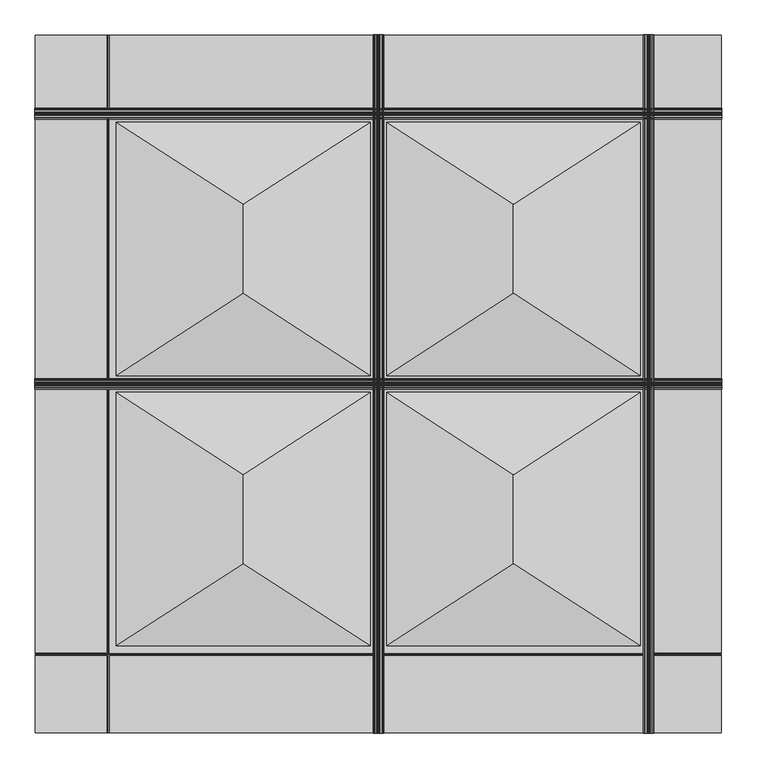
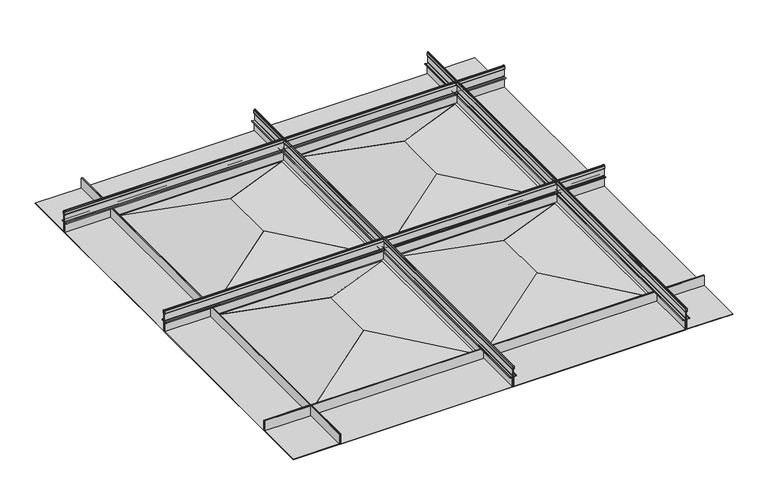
"""IFC4 building model written with IfcOpenShell, lengths in millimetres: proxy geometry, Maxxit_Piramid-Ceiling_rev-01 : Maxxit_Piramid-Ceiling_Solo."""

from ifc_helpers import new_model, si_unit, point, frame, frame_2d, origin, place, context, project, spatial, polyline, circle_curve, trimmed, segment, composite_curve, outline, extrude, faceted_brep, source, transform, mapped, element, save


def generic_models_cb427188(model_context):
    return source(origin(), model_context, "Body", "SolidModel", [
        faceted_brep([(163.5125, 1395.4125, 25.4), (0.0, 1395.4125, 25.4), (0.0, 1393.825, 25.4), (161.925, 1393.825, 25.4), (161.925, 788.9875, 25.4), (0.0, 788.9875, 25.4), (0.0, 787.4, 25.4), (163.5125, 787.4, 25.4), (163.5125, 1395.4125, -12.7), (163.5125, 787.4, -12.7), (0.0, 787.4, -12.7), (0.0, 1395.4125, -12.7), (0.0, 788.9875, -11.1125), (0.0, 1393.825, -11.1125), (161.925, 788.9875, -11.1125), (161.925, 1393.825, -11.1125)], [[[0, 1, 2, 3, 4, 5, 6, 7]], [[8, 9, 10, 11]], [[1, 0, 8, 11]], [[11, 10, 6, 5, 12, 13, 2, 1]], [[7, 6, 10, 9]], [[0, 7, 9, 8]], [[14, 15, 13, 12]], [[13, 15, 3, 2]], [[14, 12, 5, 4]], [[15, 14, 4, 3]]]),
        faceted_brep([(163.5125, 785.8125, 25.4), (0.0, 785.8125, 25.4), (0.0, 784.225, 25.4), (161.925, 784.225, 25.4), (161.925, 179.3875, 25.4), (0.0, 179.3875, 25.4), (0.0, 177.8, 25.4), (163.5125, 177.8, 25.4), (163.5125, 785.8125, -12.7), (163.5125, 177.8, -12.7), (0.0, 177.8, -12.7), (0.0, 785.8125, -12.7), (0.0, 179.3875, -11.1125), (0.0, 784.225, -11.1125), (161.925, 179.3875, -11.1125), (161.925, 784.225, -11.1125)], [[[0, 1, 2, 3, 4, 5, 6, 7]], [[8, 9, 10, 11]], [[1, 0, 8, 11]], [[11, 10, 6, 5, 12, 13, 2, 1]], [[7, 6, 10, 9]], [[0, 7, 9, 8]], [[14, 15, 13, 12]], [[13, 15, 3, 2]], [[14, 12, 5, 4]], [[15, 14, 4, 3]]]),
        faceted_brep([(1384.3, 1395.4125, 25.4), (1384.3, 787.4, 25.4), (1547.8125, 787.4, 25.4), (1547.8125, 788.9875, 25.4), (1385.8875, 788.9875, 25.4), (1385.8875, 1393.825, 25.4), (1547.8125, 1393.825, 25.4), (1547.8125, 1395.4125, 25.4), (1384.3, 1395.4125, -12.7), (1547.8125, 1395.4125, -12.7), (1547.8125, 787.4, -12.7), (1384.3, 787.4, -12.7), (1547.8125, 1393.825, -11.1125), (1547.8125, 788.9875, -11.1125), (1385.8875, 788.9875, -11.1125), (1385.8875, 1393.825, -11.1125)], [[[0, 1, 2, 3, 4, 5, 6, 7]], [[8, 9, 10, 11]], [[7, 9, 8, 0]], [[9, 7, 6, 12, 13, 3, 2, 10]], [[1, 11, 10, 2]], [[0, 8, 11, 1]], [[14, 13, 12, 15]], [[12, 6, 5, 15]], [[14, 4, 3, 13]], [[15, 5, 4, 14]]]),
        faceted_brep([(1384.3, 785.8125, 25.4), (1384.3, 177.8, 25.4), (1547.8125, 177.8, 25.4), (1547.8125, 179.3875, 25.4), (1385.8875, 179.3875, 25.4), (1385.8875, 784.225, 25.4), (1547.8125, 784.225, 25.4), (1547.8125, 785.8125, 25.4), (1384.3, 785.8125, -12.7), (1547.8125, 785.8125, -12.7), (1547.8125, 177.8, -12.7), (1384.3, 177.8, -12.7), (1547.8125, 784.225, -11.1125), (1547.8125, 179.3875, -11.1125), (1385.8875, 179.3875, -11.1125), (1385.8875, 784.225, -11.1125)], [[[0, 1, 2, 3, 4, 5, 6, 7]], [[8, 9, 10, 11]], [[7, 9, 8, 0]], [[9, 7, 6, 12, 13, 3, 2, 10]], [[1, 11, 10, 2]], [[0, 8, 11, 1]], [[14, 13, 12, 15]], [[12, 6, 5, 15]], [[14, 4, 3, 13]], [[15, 5, 4, 14]]]),
        faceted_brep([(1382.7125, 1397.0, 25.4), (1382.7125, 1573.2125, 25.4), (1381.125, 1573.2125, 25.4), (1381.125, 1398.5875, 25.4), (776.2875, 1398.5875, 25.4), (776.2875, 1573.2125, 25.4), (774.7, 1573.2125, 25.4), (774.7, 1397.0, 25.4), (1382.7125, 1397.0, -12.7), (774.7, 1397.0, -12.7), (774.7, 1573.2125, -12.7), (1382.7125, 1573.2125, -12.7), (776.2875, 1573.2125, -11.1125), (1381.125, 1573.2125, -11.1125), (1381.125, 1398.5875, -11.1125), (776.2875, 1398.5875, -11.1125)], [[[0, 1, 2, 3, 4, 5, 6, 7]], [[8, 9, 10, 11]], [[7, 9, 8, 0]], [[6, 10, 9, 7]], [[10, 6, 5, 12, 13, 2, 1, 11]], [[0, 8, 11, 1]], [[14, 13, 12, 15]], [[15, 4, 3, 14]], [[15, 12, 5, 4]], [[3, 2, 13, 14]]]),
        faceted_brep([(773.1125, 1397.0, 25.4), (773.1125, 1573.2125, 25.4), (771.525, 1573.2125, 25.4), (771.525, 1398.5875, 25.4), (166.6875, 1398.5875, 25.4), (166.6875, 1573.2125, 25.4), (165.1, 1573.2125, 25.4), (165.1, 1397.0, 25.4), (773.1125, 1397.0, -12.7), (165.1, 1397.0, -12.7), (165.1, 1573.2125, -12.7), (773.1125, 1573.2125, -12.7), (166.6875, 1573.2125, -11.1125), (771.525, 1573.2125, -11.1125), (771.525, 1398.5875, -11.1125), (166.6875, 1398.5875, -11.1125)], [[[0, 1, 2, 3, 4, 5, 6, 7]], [[8, 9, 10, 11]], [[7, 9, 8, 0]], [[6, 10, 9, 7]], [[10, 6, 5, 12, 13, 2, 1, 11]], [[0, 8, 11, 1]], [[14, 13, 12, 15]], [[15, 4, 3, 14]], [[15, 12, 5, 4]], [[3, 2, 13, 14]]]),
        faceted_brep([(1382.7125, 176.2125, 25.4), (774.7, 176.2125, 25.4), (774.7, 0.0, 25.4), (776.2875, 0.0, 25.4), (776.2875, 174.625, 25.4), (1381.125, 174.625, 25.4), (1381.125, 0.0, 25.4), (1382.7125, 0.0, 25.4), (1382.7125, 176.2125, -12.7), (1382.7125, 0.0, -12.7), (774.7, 0.0, -12.7), (774.7, 176.2125, -12.7), (1381.125, 0.0, -11.1125), (776.2875, 0.0, -11.1125), (1381.125, 174.625, -11.1125), (776.2875, 174.625, -11.1125)], [[[0, 1, 2, 3, 4, 5, 6, 7]], [[8, 9, 10, 11]], [[1, 0, 8, 11]], [[2, 1, 11, 10]], [[10, 9, 7, 6, 12, 13, 3, 2]], [[0, 7, 9, 8]], [[14, 15, 13, 12]], [[15, 14, 5, 4]], [[15, 4, 3, 13]], [[5, 14, 12, 6]]]),
        faceted_brep([(773.1125, 176.2125, 25.4), (165.1, 176.2125, 25.4), (165.1, 0.0, 25.4), (166.6875, 0.0, 25.4), (166.6875, 174.625, 25.4), (771.525, 174.625, 25.4), (771.525, 0.0, 25.4), (773.1125, 0.0, 25.4), (773.1125, 176.2125, -12.7), (773.1125, 0.0, -12.7), (165.1, 0.0, -12.7), (165.1, 176.2125, -12.7), (771.525, 0.0, -11.1125), (166.6875, 0.0, -11.1125), (771.525, 174.625, -11.1125), (166.6875, 174.625, -11.1125)], [[[0, 1, 2, 3, 4, 5, 6, 7]], [[8, 9, 10, 11]], [[1, 0, 8, 11]], [[2, 1, 11, 10]], [[10, 9, 7, 6, 12, 13, 3, 2]], [[0, 7, 9, 8]], [[14, 15, 13, 12]], [[15, 14, 5, 4]], [[15, 4, 3, 13]], [[5, 14, 12, 6]]]),
        faceted_brep([(1547.8125, 176.2125, 25.4), (1384.3, 176.2125, 25.4), (1384.3, 0.0, 25.4), (1385.8875, 0.0, 25.4), (1385.8875, 174.625, 25.4), (1547.8125, 174.625, 25.4), (1384.3, 0.0, -12.7), (1384.3, 176.2125, -12.7), (1547.8125, 176.2125, -12.7), (1547.8125, 0.0, -12.7), (1547.8125, 0.0, -11.1125), (1385.8875, 0.0, -11.1125), (1547.8125, 174.625, -11.1125), (1385.8875, 174.625, -11.1125)], [[[0, 1, 2, 3, 4, 5]], [[6, 7, 8, 9]], [[6, 9, 10, 11, 3, 2]], [[9, 8, 0, 5, 12, 10]], [[2, 1, 7, 6]], [[1, 0, 8, 7]], [[13, 11, 10, 12]], [[11, 13, 4, 3]], [[13, 12, 5, 4]]]),
        faceted_brep([(163.5125, 0.0, 25.4), (163.5125, 176.2125, 25.4), (0.0, 176.2125, 25.4), (0.0, 174.625, 25.4), (161.925, 174.625, 25.4), (161.925, 0.0, 25.4), (0.0, 176.2125, -12.7), (163.5125, 176.2125, -12.7), (163.5125, 0.0, -12.7), (0.0, 0.0, -12.7), (0.0, 0.0, -11.1125), (0.0, 174.625, -11.1125), (161.925, 0.0, -11.1125), (161.925, 174.625, -11.1125)], [[[0, 1, 2, 3, 4, 5]], [[6, 7, 8, 9]], [[6, 9, 10, 11, 3, 2]], [[9, 8, 0, 5, 12, 10]], [[1, 0, 8, 7]], [[2, 1, 7, 6]], [[13, 11, 10, 12]], [[11, 13, 4, 3]], [[13, 12, 5, 4]]]),
        faceted_brep([(163.5125, 1397.0, 25.4), (163.5125, 1573.2125, 25.4), (161.925, 1573.2125, 25.4), (161.925, 1398.5875, 25.4), (0.0, 1398.5875, 25.4), (0.0, 1397.0, 25.4), (163.5125, 1397.0, -12.7), (0.0, 1397.0, -12.7), (0.0, 1573.2125, -12.7), (163.5125, 1573.2125, -12.7), (0.0, 1573.2125, -11.1125), (161.925, 1573.2125, -11.1125), (0.0, 1398.5875, -11.1125), (161.925, 1398.5875, -11.1125)], [[[0, 1, 2, 3, 4, 5]], [[6, 7, 8, 9]], [[1, 0, 6, 9]], [[0, 5, 7, 6]], [[9, 8, 10, 11, 2, 1]], [[8, 7, 5, 4, 12, 10]], [[13, 11, 10, 12]], [[11, 13, 3, 2]], [[13, 12, 4, 3]]]),
        faceted_brep([(1384.3, 1573.2125, 25.4), (1384.3, 1397.0, 25.4), (1547.8125, 1397.0, 25.4), (1547.8125, 1398.5875, 25.4), (1385.8875, 1398.5875, 25.4), (1385.8875, 1573.2125, 25.4), (1384.3, 1573.2125, -12.7), (1547.8125, 1573.2125, -12.7), (1547.8125, 1397.0, -12.7), (1384.3, 1397.0, -12.7), (1385.8875, 1573.2125, -11.1125), (1547.8125, 1573.2125, -11.1125), (1547.8125, 1398.5875, -11.1125), (1385.8875, 1398.5875, -11.1125)], [[[0, 1, 2, 3, 4, 5]], [[6, 7, 8, 9]], [[7, 6, 0, 5, 10, 11]], [[1, 0, 6, 9]], [[2, 1, 9, 8]], [[8, 7, 11, 12, 3, 2]], [[13, 12, 11, 10]], [[12, 13, 4, 3]], [[13, 10, 5, 4]]]),
        faceted_brep([(792.7, 805.4, -11.1125), (1364.7125, 805.4, -11.1125), (1364.8516703, 805.4, -1.5875), (792.7, 805.4, -1.5875), (1080.29375, 989.80625, 73.81875), (1077.11875, 989.80625, 73.81875), (1080.29375, 989.80625, 64.29375), (1077.11875, 989.80625, 64.29375)], [[[0, 1, 2, 3]], [[3, 2, 4, 5]], [[5, 4, 6, 7]], [[1, 0, 7, 6]], [[2, 1, 6, 4]], [[0, 3, 5, 7]]]),
        faceted_brep([(792.7, 1377.4125, -11.1125), (1364.7125, 1377.4125, -11.1125), (1080.29375, 1193.00625, 64.29375), (1077.11875, 1193.00625, 64.29375), (1080.29375, 1193.00625, 73.81875), (1077.11875, 1193.00625, 73.81875), (1364.7125, 1377.4125, -1.5875), (792.7, 1377.4125, -1.5875)], [[[0, 1, 2, 3]], [[3, 2, 4, 5]], [[6, 7, 5, 4]], [[1, 0, 7, 6]], [[2, 1, 6, 4]], [[0, 3, 5, 7]]]),
        faceted_brep([(1364.7125, 1377.4125, -11.1125), (1364.7125, 805.4, -11.1125), (1078.70625, 990.8350209, 64.29375), (1078.70625, 1191.9774791, 64.29375), (1364.7125, 805.4, -1.5875), (1364.7125, 1377.4125, -1.5875), (1078.70625, 1191.9774791, 73.81875), (1078.70625, 990.8350209, 73.81875), (792.7, 805.4, -11.1125), (792.7, 1377.4125, -11.1125), (792.7, 805.4901885, -1.5875), (792.7, 1377.4125, -1.5875)], [[[0, 1, 2, 3]], [[4, 5, 6, 7]], [[1, 0, 5, 4]], [[8, 9, 3, 2]], [[9, 8, 10, 11]], [[11, 10, 7, 6]], [[7, 2, 1, 4]], [[3, 6, 5, 0]], [[2, 7, 10, 8]], [[6, 3, 9, 11]]]),
        faceted_brep([(774.7, 787.4, -12.7), (774.7, 1395.4125, -12.7), (1382.7125, 1395.4125, -12.7), (1382.7125, 787.4, -12.7), (1364.7125, 805.4, -12.7), (1364.7125, 1377.4125, -12.7), (792.7, 1377.4125, -12.7), (792.7, 805.4, -12.7), (774.7, 787.4, 25.4), (1382.7125, 787.4, 25.4), (1382.7125, 1395.4125, 25.4), (774.7, 1395.4125, 25.4), (1381.125, 788.9875, 25.4), (776.2875, 788.9875, 25.4), (776.2875, 1393.825, 25.4), (1381.125, 1393.825, 25.4), (1364.7125, 805.4, -11.1125), (1364.7125, 1377.4125, -11.1125), (792.7, 805.4, -11.1125), (792.7, 1377.4125, -11.1125), (776.2875, 788.9875, -11.1125), (1381.125, 788.9875, -11.1125), (1381.125, 1393.825, -11.1125), (776.2875, 1393.825, -11.1125)], [[[0, 1, 2, 3], [4, 5, 6, 7]], [[8, 9, 10, 11], [12, 13, 14, 15]], [[9, 8, 0, 3]], [[10, 9, 3, 2]], [[11, 10, 2, 1]], [[8, 11, 1, 0]], [[5, 4, 16, 17]], [[4, 7, 18, 16]], [[7, 6, 19, 18]], [[6, 5, 17, 19]], [[20, 21, 22, 23], [17, 16, 18, 19]], [[21, 20, 13, 12]], [[22, 21, 12, 15]], [[23, 22, 15, 14]], [[20, 23, 14, 13]]]),
        faceted_brep([(183.1, 805.4, -11.1125), (755.1125, 805.4, -11.1125), (755.2516703, 805.4, -1.5875), (183.1, 805.4, -1.5875), (470.69375, 989.80625, 73.81875), (467.51875, 989.80625, 73.81875), (470.69375, 989.80625, 64.29375), (467.51875, 989.80625, 64.29375)], [[[0, 1, 2, 3]], [[3, 2, 4, 5]], [[5, 4, 6, 7]], [[1, 0, 7, 6]], [[2, 1, 6, 4]], [[0, 3, 5, 7]]]),
        faceted_brep([(183.1, 1377.4125, -11.1125), (755.1125, 1377.4125, -11.1125), (470.69375, 1193.00625, 64.29375), (467.51875, 1193.00625, 64.29375), (470.69375, 1193.00625, 73.81875), (467.51875, 1193.00625, 73.81875), (755.1125, 1377.4125, -1.5875), (183.1, 1377.4125, -1.5875)], [[[0, 1, 2, 3]], [[3, 2, 4, 5]], [[6, 7, 5, 4]], [[1, 0, 7, 6]], [[2, 1, 6, 4]], [[0, 3, 5, 7]]]),
        faceted_brep([(755.1125, 1377.4125, -11.1125), (755.1125, 805.4, -11.1125), (469.10625, 990.8350209, 64.29375), (469.10625, 1191.9774791, 64.29375), (755.1125, 805.4, -1.5875), (755.1125, 1377.4125, -1.5875), (469.10625, 1191.9774791, 73.81875), (469.10625, 990.8350209, 73.81875), (183.1, 805.4, -11.1125), (183.1, 1377.4125, -11.1125), (183.1, 805.4901885, -1.5875), (183.1, 1377.4125, -1.5875)], [[[0, 1, 2, 3]], [[4, 5, 6, 7]], [[1, 0, 5, 4]], [[8, 9, 3, 2]], [[9, 8, 10, 11]], [[11, 10, 7, 6]], [[7, 2, 1, 4]], [[3, 6, 5, 0]], [[2, 7, 10, 8]], [[6, 3, 9, 11]]]),
        faceted_brep([(165.1, 787.4, -12.7), (165.1, 1395.4125, -12.7), (773.1125, 1395.4125, -12.7), (773.1125, 787.4, -12.7), (755.1125, 805.4, -12.7), (755.1125, 1377.4125, -12.7), (183.1, 1377.4125, -12.7), (183.1, 805.4, -12.7), (165.1, 787.4, 25.4), (773.1125, 787.4, 25.4), (773.1125, 1395.4125, 25.4), (165.1, 1395.4125, 25.4), (771.525, 788.9875, 25.4), (166.6875, 788.9875, 25.4), (166.6875, 1393.825, 25.4), (771.525, 1393.825, 25.4), (755.1125, 805.4, -11.1125), (755.1125, 1377.4125, -11.1125), (183.1, 805.4, -11.1125), (183.1, 1377.4125, -11.1125), (166.6875, 788.9875, -11.1125), (771.525, 788.9875, -11.1125), (771.525, 1393.825, -11.1125), (166.6875, 1393.825, -11.1125)], [[[0, 1, 2, 3], [4, 5, 6, 7]], [[8, 9, 10, 11], [12, 13, 14, 15]], [[9, 8, 0, 3]], [[10, 9, 3, 2]], [[11, 10, 2, 1]], [[8, 11, 1, 0]], [[5, 4, 16, 17]], [[4, 7, 18, 16]], [[7, 6, 19, 18]], [[6, 5, 17, 19]], [[20, 21, 22, 23], [17, 16, 18, 19]], [[21, 20, 13, 12]], [[22, 21, 12, 15]], [[23, 22, 15, 14]], [[20, 23, 14, 13]]]),
        faceted_brep([(792.7, 195.8, -11.1125), (1364.7125, 195.8, -11.1125), (1364.8516703, 195.8, -1.5875), (792.7, 195.8, -1.5875), (1080.29375, 380.20625, 73.81875), (1077.11875, 380.20625, 73.81875), (1080.29375, 380.20625, 64.29375), (1077.11875, 380.20625, 64.29375)], [[[0, 1, 2, 3]], [[3, 2, 4, 5]], [[5, 4, 6, 7]], [[1, 0, 7, 6]], [[2, 1, 6, 4]], [[0, 3, 5, 7]]]),
        faceted_brep([(792.7, 767.8125, -11.1125), (1364.7125, 767.8125, -11.1125), (1080.29375, 583.40625, 64.29375), (1077.11875, 583.40625, 64.29375), (1080.29375, 583.40625, 73.81875), (1077.11875, 583.40625, 73.81875), (1364.7125, 767.8125, -1.5875), (792.7, 767.8125, -1.5875)], [[[0, 1, 2, 3]], [[3, 2, 4, 5]], [[6, 7, 5, 4]], [[1, 0, 7, 6]], [[2, 1, 6, 4]], [[0, 3, 5, 7]]]),
        faceted_brep([(1364.7125, 767.8125, -11.1125), (1364.7125, 195.8, -11.1125), (1078.70625, 381.2350209, 64.29375), (1078.70625, 582.3774791, 64.29375), (1364.7125, 195.8, -1.5875), (1364.7125, 767.8125, -1.5875), (1078.70625, 582.3774791, 73.81875), (1078.70625, 381.2350209, 73.81875), (792.7, 195.8, -11.1125), (792.7, 767.8125, -11.1125), (792.7, 195.8901885, -1.5875), (792.7, 767.8125, -1.5875)], [[[0, 1, 2, 3]], [[4, 5, 6, 7]], [[1, 0, 5, 4]], [[8, 9, 3, 2]], [[9, 8, 10, 11]], [[11, 10, 7, 6]], [[7, 2, 1, 4]], [[3, 6, 5, 0]], [[2, 7, 10, 8]], [[6, 3, 9, 11]]]),
        faceted_brep([(774.7, 177.8, -12.7), (774.7, 785.8125, -12.7), (1382.7125, 785.8125, -12.7), (1382.7125, 177.8, -12.7), (1364.7125, 195.8, -12.7), (1364.7125, 767.8125, -12.7), (792.7, 767.8125, -12.7), (792.7, 195.8, -12.7), (774.7, 177.8, 25.4), (1382.7125, 177.8, 25.4), (1382.7125, 785.8125, 25.4), (774.7, 785.8125, 25.4), (1381.125, 179.3875, 25.4), (776.2875, 179.3875, 25.4), (776.2875, 784.225, 25.4), (1381.125, 784.225, 25.4), (1364.7125, 195.8, -11.1125), (1364.7125, 767.8125, -11.1125), (792.7, 195.8, -11.1125), (792.7, 767.8125, -11.1125), (776.2875, 179.3875, -11.1125), (1381.125, 179.3875, -11.1125), (1381.125, 784.225, -11.1125), (776.2875, 784.225, -11.1125)], [[[0, 1, 2, 3], [4, 5, 6, 7]], [[8, 9, 10, 11], [12, 13, 14, 15]], [[9, 8, 0, 3]], [[10, 9, 3, 2]], [[11, 10, 2, 1]], [[8, 11, 1, 0]], [[5, 4, 16, 17]], [[4, 7, 18, 16]], [[7, 6, 19, 18]], [[6, 5, 17, 19]], [[20, 21, 22, 23], [17, 16, 18, 19]], [[21, 20, 13, 12]], [[22, 21, 12, 15]], [[23, 22, 15, 14]], [[20, 23, 14, 13]]]),
        faceted_brep([(183.1, 195.8, -11.1125), (755.1125, 195.8, -11.1125), (755.2516703, 195.8, -1.5875), (183.1, 195.8, -1.5875), (470.69375, 380.20625, 73.81875), (467.51875, 380.20625, 73.81875), (470.69375, 380.20625, 64.29375), (467.51875, 380.20625, 64.29375)], [[[0, 1, 2, 3]], [[3, 2, 4, 5]], [[5, 4, 6, 7]], [[1, 0, 7, 6]], [[2, 1, 6, 4]], [[0, 3, 5, 7]]]),
        faceted_brep([(183.1, 767.8125, -11.1125), (755.1125, 767.8125, -11.1125), (470.69375, 583.40625, 64.29375), (467.51875, 583.40625, 64.29375), (470.69375, 583.40625, 73.81875), (467.51875, 583.40625, 73.81875), (755.1125, 767.8125, -1.5875), (183.1, 767.8125, -1.5875)], [[[0, 1, 2, 3]], [[3, 2, 4, 5]], [[6, 7, 5, 4]], [[1, 0, 7, 6]], [[2, 1, 6, 4]], [[0, 3, 5, 7]]]),
        faceted_brep([(755.1125, 767.8125, -11.1125), (755.1125, 195.8, -11.1125), (469.10625, 381.2350209, 64.29375), (469.10625, 582.3774791, 64.29375), (755.1125, 195.8, -1.5875), (755.1125, 767.8125, -1.5875), (469.10625, 582.3774791, 73.81875), (469.10625, 381.2350209, 73.81875), (183.1, 195.8, -11.1125), (183.1, 767.8125, -11.1125), (183.1, 195.8901885, -1.5875), (183.1, 767.8125, -1.5875)], [[[0, 1, 2, 3]], [[4, 5, 6, 7]], [[1, 0, 5, 4]], [[8, 9, 3, 2]], [[9, 8, 10, 11]], [[11, 10, 7, 6]], [[7, 2, 1, 4]], [[3, 6, 5, 0]], [[2, 7, 10, 8]], [[6, 3, 9, 11]]]),
        faceted_brep([(165.1, 177.8, -12.7), (165.1, 785.8125, -12.7), (773.1125, 785.8125, -12.7), (773.1125, 177.8, -12.7), (755.1125, 195.8, -12.7), (755.1125, 767.8125, -12.7), (183.1, 767.8125, -12.7), (183.1, 195.8, -12.7), (165.1, 177.8, 25.4), (773.1125, 177.8, 25.4), (773.1125, 785.8125, 25.4), (165.1, 785.8125, 25.4), (771.525, 179.3875, 25.4), (166.6875, 179.3875, 25.4), (166.6875, 784.225, 25.4), (771.525, 784.225, 25.4), (755.1125, 195.8, -11.1125), (755.1125, 767.8125, -11.1125), (183.1, 195.8, -11.1125), (183.1, 767.8125, -11.1125), (166.6875, 179.3875, -11.1125), (771.525, 179.3875, -11.1125), (771.525, 784.225, -11.1125), (166.6875, 784.225, -11.1125)], [[[0, 1, 2, 3], [4, 5, 6, 7]], [[8, 9, 10, 11], [12, 13, 14, 15]], [[9, 8, 0, 3]], [[10, 9, 3, 2]], [[11, 10, 2, 1]], [[8, 11, 1, 0]], [[5, 4, 16, 17]], [[4, 7, 18, 16]], [[7, 6, 19, 18]], [[6, 5, 17, 19]], [[20, 21, 22, 23], [17, 16, 18, 19]], [[21, 20, 13, 12]], [[22, 21, 12, 15]], [[23, 22, 15, 14]], [[20, 23, 14, 13]]]),
        extrude(outline(composite_curve([segment(polyline([(26.3453115, 1384.6521622), (26.0364605, 1393.0221882), (27.0486923, 1393.0221882), (27.0486923, 1385.2587813)]), True, "CONTINUOUS"), segment(trimmed(circle_curve(frame_2d((28.0053766, 1385.2587813)), 0.9566843), [point((27.0486923, 1385.2587813))], [point((28.0053766, 1384.302097))], True, "CARTESIAN"), True, "CONTINUOUS"), segment(polyline([(28.0053766, 1384.302097), (53.7729211, 1384.302097)]), True, "CONTINUOUS"), segment(trimmed(circle_curve(frame_2d((53.6130577, 1385.0289444)), 0.74422), [point((53.7729211, 1384.302097))], [point((54.356, 1384.9853536))], True, "CARTESIAN"), True, "CONTINUOUS"), segment(trimmed(circle_curve(frame_2d((58.371716, 1385.2444703)), 4.0240672), [point((54.356, 1384.9853536))], [point((54.4068054, 1385.9319295))], False, "CARTESIAN"), True, "CONTINUOUS"), segment(trimmed(circle_curve(frame_2d((55.7865501, 1385.574174)), 1.4253717), [point((54.4068054, 1385.9319295))], [point((55.7865501, 1386.9995457))], False, "CARTESIAN"), True, "CONTINUOUS"), segment(polyline([(55.7865501, 1386.9995457), (64.7585942, 1386.9995457)]), True, "CONTINUOUS"), segment(trimmed(circle_curve(frame_2d((64.8150812, 1384.9494608)), 2.0508629), [point((64.7585942, 1386.9995457))], [point((66.2652603, 1386.3996399))], False, "CARTESIAN"), True, "CONTINUOUS"), segment(polyline([(66.2652603, 1386.3996399), (68.1708325, 1384.4940677)]), True, "CONTINUOUS"), segment(trimmed(circle_curve(frame_2d((67.1830148, 1383.50625)), 1.3969852), [point((68.1708325, 1384.4940677))], [point((68.1708325, 1382.5184323))], False, "CARTESIAN"), True, "CONTINUOUS"), segment(polyline([(68.1708325, 1382.5184323), (66.2652603, 1380.6128601)]), True, "CONTINUOUS"), segment(trimmed(circle_curve(frame_2d((64.8150812, 1382.0630392)), 2.0508629), [point((66.2652603, 1380.6128601))], [point((64.7585942, 1380.0129543))], False, "CARTESIAN"), True, "CONTINUOUS"), segment(polyline([(64.7585942, 1380.0129543), (55.7865501, 1380.0129543)]), True, "CONTINUOUS"), segment(trimmed(circle_curve(frame_2d((55.7865501, 1381.438326)), 1.4253717), [point((55.7865501, 1380.0129543))], [point((54.4068054, 1381.0805705))], False, "CARTESIAN"), True, "CONTINUOUS"), segment(trimmed(circle_curve(frame_2d((58.371716, 1381.7680297)), 4.0240672), [point((54.4068054, 1381.0805705))], [point((54.356, 1382.0271464))], False, "CARTESIAN"), True, "CONTINUOUS"), segment(trimmed(circle_curve(frame_2d((53.6130577, 1381.9835556)), 0.74422), [point((54.356, 1382.0271464))], [point((53.7436541, 1382.7162274))], True, "CARTESIAN"), True, "CONTINUOUS"), segment(polyline([(53.7436541, 1382.7162274), (28.0053766, 1382.7162274)]), True, "CONTINUOUS"), segment(trimmed(circle_curve(frame_2d((28.0053766, 1381.7595431)), 0.9566843), [point((28.0053766, 1382.7162274))], [point((27.0486923, 1381.7595431))], True, "CARTESIAN"), True, "CONTINUOUS"), segment(polyline([(27.0486923, 1381.7595431), (27.0486923, 1373.1632271), (26.0290179, 1373.1632271), (26.3453115, 1382.3661622)]), True, "CONTINUOUS"), segment(trimmed(circle_curve(frame_2d((27.4883115, 1382.3661622)), 1.143), [point((26.3453115, 1382.3661622))], [point((27.4883115, 1383.5091622))], False, "CARTESIAN"), True, "CONTINUOUS"), segment(trimmed(circle_curve(frame_2d((27.4883115, 1384.6521622)), 1.143), [point((27.4883115, 1383.5091622))], [point((26.3453115, 1384.6521622))], False, "CARTESIAN"), True, "CONTINUOUS")], self_intersect=False), holes=[composite_curve([segment(trimmed(circle_curve(frame_2d((54.058724, 1382.4366423)), 1.0922), [point((54.2797221, 1383.50625))], [point((55.150924, 1382.4366423))], False, "CARTESIAN"), True, "CONTINUOUS"), segment(polyline([(55.150924, 1382.4366423), (55.150924, 1381.4462215)]), True, "CONTINUOUS"), segment(trimmed(circle_curve(frame_2d((55.7859245, 1381.4462215)), 0.6350005), [point((55.150924, 1381.4462215))], [point((55.7859245, 1380.811221))], True, "CARTESIAN"), True, "CONTINUOUS"), segment(polyline([(55.7859245, 1380.811221), (64.7585942, 1380.811221)]), True, "CONTINUOUS"), segment(trimmed(circle_curve(frame_2d((64.7240599, 1382.3140641)), 1.5032399), [point((64.7585942, 1380.811221))], [point((65.7039943, 1381.1741261))], True, "CARTESIAN"), True, "CONTINUOUS"), segment(polyline([(65.7039943, 1381.1741261), (67.6095665, 1383.0796983)]), True, "CONTINUOUS"), segment(trimmed(circle_curve(frame_2d((67.1830148, 1383.50625)), 0.6032352), [point((67.6095665, 1383.0796983))], [point((67.6095665, 1383.9328017))], True, "CARTESIAN"), True, "CONTINUOUS"), segment(polyline([(67.6095665, 1383.9328017), (65.7039943, 1385.8383739)]), True, "CONTINUOUS"), segment(trimmed(circle_curve(frame_2d((64.7240599, 1384.6984359)), 1.5032399), [point((65.7039943, 1385.8383739))], [point((64.7585942, 1386.201279))], True, "CARTESIAN"), True, "CONTINUOUS"), segment(polyline([(64.7585942, 1386.201279), (55.7859245, 1386.201279)]), True, "CONTINUOUS"), segment(trimmed(circle_curve(frame_2d((55.7859245, 1385.5662785)), 0.6350005), [point((55.7859245, 1386.201279))], [point((55.150924, 1385.5662785))], True, "CARTESIAN"), True, "CONTINUOUS"), segment(polyline([(55.150924, 1385.5662785), (55.150924, 1384.5758577)]), True, "CONTINUOUS"), segment(trimmed(circle_curve(frame_2d((54.058724, 1384.5758577)), 1.0922), [point((55.150924, 1384.5758577))], [point((54.2797221, 1383.50625))], False, "CARTESIAN"), True, "CONTINUOUS")], self_intersect=False)]), frame((0.0, -0.79375, 0.0), z_axis=(0.0, 1.0, 0.0), x_axis=(0.0, 0.0, 1.0)), (0.0, 0.0, 1.0), 1574.8),
        extrude(outline(composite_curve([segment(trimmed(circle_curve(frame_2d((26.8823557, 1393.9419885)), 1.4823557), [point((25.4, 1393.9419885))], [point((28.3175237, 1393.5709475))], False, "CARTESIAN"), True, "CONTINUOUS"), segment(polyline([(28.3175237, 1393.5709475), (27.887022, 1392.0447705), (27.123083, 1392.2602613), (27.550773, 1393.7764703)]), True, "CONTINUOUS"), segment(trimmed(circle_curve(frame_2d((26.8823557, 1393.9419885)), 0.6886057), [point((27.550773, 1393.7764703))], [point((26.19375, 1393.9419885))], True, "CARTESIAN"), True, "CONTINUOUS"), segment(polyline([(26.19375, 1393.9419885), (26.19375, 1373.0705115)]), True, "CONTINUOUS"), segment(trimmed(circle_curve(frame_2d((26.8823557, 1373.0705115)), 0.6886057), [point((26.19375, 1373.0705115))], [point((27.550773, 1373.2360297))], True, "CARTESIAN"), True, "CONTINUOUS"), segment(polyline([(27.550773, 1373.2360297), (27.123083, 1374.7522387), (27.887022, 1374.9677295), (28.3175237, 1373.4415525)]), True, "CONTINUOUS"), segment(trimmed(circle_curve(frame_2d((26.8823557, 1373.0705115)), 1.4823557), [point((28.3175237, 1373.4415525))], [point((25.4, 1373.0705115))], False, "CARTESIAN"), True, "CONTINUOUS"), segment(polyline([(25.4, 1373.0705115), (25.4, 1393.9419885)]), True, "CONTINUOUS")], self_intersect=False)), frame((0.0, -0.79375, 0.0), z_axis=(0.0, 1.0, 0.0), x_axis=(0.0, 0.0, 1.0)), (0.0, 0.0, 1.0), 1574.8),
        extrude(outline(composite_curve([segment(trimmed(circle_curve(frame_2d((1397.3521622, 27.4883115)), 1.143), [point((1397.3521622, 26.3453115))], [point((1396.2091622, 27.4883115))], False, "CARTESIAN"), True, "CONTINUOUS"), segment(trimmed(circle_curve(frame_2d((1395.0661622, 27.4883115)), 1.143), [point((1396.2091622, 27.4883115))], [point((1395.0661622, 26.3453115))], False, "CARTESIAN"), True, "CONTINUOUS"), segment(polyline([(1395.0661622, 26.3453115), (1385.8632271, 26.0290179), (1385.8632271, 27.0486923), (1394.4595431, 27.0486923)]), True, "CONTINUOUS"), segment(trimmed(circle_curve(frame_2d((1394.4595431, 28.0053766)), 0.9566843), [point((1394.4595431, 27.0486923))], [point((1395.4162274, 28.0053766))], True, "CARTESIAN"), True, "CONTINUOUS"), segment(polyline([(1395.4162274, 28.0053766), (1395.4162274, 53.7436541)]), True, "CONTINUOUS"), segment(trimmed(circle_curve(frame_2d((1394.6835556, 53.6130577)), 0.74422), [point((1395.4162274, 53.7436541))], [point((1394.7271464, 54.356))], True, "CARTESIAN"), True, "CONTINUOUS"), segment(trimmed(circle_curve(frame_2d((1394.4680297, 58.371716)), 4.0240672), [point((1394.7271464, 54.356))], [point((1393.7805705, 54.4068054))], False, "CARTESIAN"), True, "CONTINUOUS"), segment(trimmed(circle_curve(frame_2d((1394.138326, 55.7865501)), 1.4253717), [point((1393.7805705, 54.4068054))], [point((1392.7129543, 55.7865501))], False, "CARTESIAN"), True, "CONTINUOUS"), segment(polyline([(1392.7129543, 55.7865501), (1392.7129543, 64.7585942)]), True, "CONTINUOUS"), segment(trimmed(circle_curve(frame_2d((1394.7630392, 64.8150812)), 2.0508629), [point((1392.7129543, 64.7585942))], [point((1393.3128601, 66.2652603))], False, "CARTESIAN"), True, "CONTINUOUS"), segment(polyline([(1393.3128601, 66.2652603), (1395.2184323, 68.1708325)]), True, "CONTINUOUS"), segment(trimmed(circle_curve(frame_2d((1396.20625, 67.1830148)), 1.3969852), [point((1395.2184323, 68.1708325))], [point((1397.1940677, 68.1708325))], False, "CARTESIAN"), True, "CONTINUOUS"), segment(polyline([(1397.1940677, 68.1708325), (1399.0996399, 66.2652603)]), True, "CONTINUOUS"), segment(trimmed(circle_curve(frame_2d((1397.6494608, 64.8150812)), 2.0508629), [point((1399.0996399, 66.2652603))], [point((1399.6995457, 64.7585942))], False, "CARTESIAN"), True, "CONTINUOUS"), segment(polyline([(1399.6995457, 64.7585942), (1399.6995457, 55.7865501)]), True, "CONTINUOUS"), segment(trimmed(circle_curve(frame_2d((1398.274174, 55.7865501)), 1.4253717), [point((1399.6995457, 55.7865501))], [point((1398.6319295, 54.4068054))], False, "CARTESIAN"), True, "CONTINUOUS"), segment(trimmed(circle_curve(frame_2d((1397.9444703, 58.371716)), 4.0240672), [point((1398.6319295, 54.4068054))], [point((1397.6853536, 54.356))], False, "CARTESIAN"), True, "CONTINUOUS"), segment(trimmed(circle_curve(frame_2d((1397.7289444, 53.6130577)), 0.74422), [point((1397.6853536, 54.356))], [point((1397.002097, 53.7729211))], True, "CARTESIAN"), True, "CONTINUOUS"), segment(polyline([(1397.002097, 53.7729211), (1397.002097, 28.0053766)]), True, "CONTINUOUS"), segment(trimmed(circle_curve(frame_2d((1397.9587813, 28.0053766)), 0.9566843), [point((1397.002097, 28.0053766))], [point((1397.9587813, 27.0486923))], True, "CARTESIAN"), True, "CONTINUOUS"), segment(polyline([(1397.9587813, 27.0486923), (1405.7221882, 27.0486923), (1405.7221882, 26.0364605), (1397.3521622, 26.3453115)]), True, "CONTINUOUS")], self_intersect=False), holes=[composite_curve([segment(trimmed(circle_curve(frame_2d((1397.2758577, 54.058724)), 1.0922), [point((1396.20625, 54.2797221))], [point((1397.2758577, 55.150924))], False, "CARTESIAN"), True, "CONTINUOUS"), segment(polyline([(1397.2758577, 55.150924), (1398.2662785, 55.150924)]), True, "CONTINUOUS"), segment(trimmed(circle_curve(frame_2d((1398.2662785, 55.7859245)), 0.6350005), [point((1398.2662785, 55.150924))], [point((1398.901279, 55.7859245))], True, "CARTESIAN"), True, "CONTINUOUS"), segment(polyline([(1398.901279, 55.7859245), (1398.901279, 64.7585942)]), True, "CONTINUOUS"), segment(trimmed(circle_curve(frame_2d((1397.3984359, 64.7240599)), 1.5032399), [point((1398.901279, 64.7585942))], [point((1398.5383739, 65.7039943))], True, "CARTESIAN"), True, "CONTINUOUS"), segment(polyline([(1398.5383739, 65.7039943), (1396.6328017, 67.6095665)]), True, "CONTINUOUS"), segment(trimmed(circle_curve(frame_2d((1396.20625, 67.1830148)), 0.6032352), [point((1396.6328017, 67.6095665))], [point((1395.7796983, 67.6095665))], True, "CARTESIAN"), True, "CONTINUOUS"), segment(polyline([(1395.7796983, 67.6095665), (1393.8741261, 65.7039943)]), True, "CONTINUOUS"), segment(trimmed(circle_curve(frame_2d((1395.0140641, 64.7240599)), 1.5032399), [point((1393.8741261, 65.7039943))], [point((1393.511221, 64.7585942))], True, "CARTESIAN"), True, "CONTINUOUS"), segment(polyline([(1393.511221, 64.7585942), (1393.511221, 55.7859245)]), True, "CONTINUOUS"), segment(trimmed(circle_curve(frame_2d((1394.1462215, 55.7859245)), 0.6350005), [point((1393.511221, 55.7859245))], [point((1394.1462215, 55.150924))], True, "CARTESIAN"), True, "CONTINUOUS"), segment(polyline([(1394.1462215, 55.150924), (1395.1366423, 55.150924)]), True, "CONTINUOUS"), segment(trimmed(circle_curve(frame_2d((1395.1366423, 54.058724)), 1.0922), [point((1395.1366423, 55.150924))], [point((1396.20625, 54.2797221))], False, "CARTESIAN"), True, "CONTINUOUS")], self_intersect=False)]), frame((-0.79375, 0.0, 0.0), z_axis=(1.0, 0.0, 0.0), x_axis=(0.0, 1.0, 0.0)), (0.0, 0.0, 1.0), 1549.4),
        extrude(outline(composite_curve([segment(polyline([(1406.6419885, 25.4), (1385.7705115, 25.4)]), True, "CONTINUOUS"), segment(trimmed(circle_curve(frame_2d((1385.7705115, 26.8823557)), 1.4823557), [point((1385.7705115, 25.4))], [point((1386.1415525, 28.3175237))], False, "CARTESIAN"), True, "CONTINUOUS"), segment(polyline([(1386.1415525, 28.3175237), (1387.6677295, 27.887022), (1387.4522387, 27.123083), (1385.9360297, 27.550773)]), True, "CONTINUOUS"), segment(trimmed(circle_curve(frame_2d((1385.7705115, 26.8823557)), 0.6886057), [point((1385.9360297, 27.550773))], [point((1385.7705115, 26.19375))], True, "CARTESIAN"), True, "CONTINUOUS"), segment(polyline([(1385.7705115, 26.19375), (1406.6419885, 26.19375)]), True, "CONTINUOUS"), segment(trimmed(circle_curve(frame_2d((1406.6419885, 26.8823557)), 0.6886057), [point((1406.6419885, 26.19375))], [point((1406.4764703, 27.550773))], True, "CARTESIAN"), True, "CONTINUOUS"), segment(polyline([(1406.4764703, 27.550773), (1404.9602613, 27.123083), (1404.7447705, 27.887022), (1406.2709475, 28.3175237)]), True, "CONTINUOUS"), segment(trimmed(circle_curve(frame_2d((1406.6419885, 26.8823557)), 1.4823557), [point((1406.2709475, 28.3175237))], [point((1406.6419885, 25.4))], False, "CARTESIAN"), True, "CONTINUOUS")], self_intersect=False)), frame((-0.79375, 0.0, 0.0), z_axis=(1.0, 0.0, 0.0), x_axis=(0.0, 1.0, 0.0)), (0.0, 0.0, 1.0), 1549.4),
        extrude(outline(composite_curve([segment(polyline([(26.3453115, 775.0521622), (26.0364605, 783.4221882), (27.0486923, 783.4221882), (27.0486923, 775.6587813)]), True, "CONTINUOUS"), segment(trimmed(circle_curve(frame_2d((28.0053766, 775.6587813)), 0.9566843), [point((27.0486923, 775.6587813))], [point((28.0053766, 774.702097))], True, "CARTESIAN"), True, "CONTINUOUS"), segment(polyline([(28.0053766, 774.702097), (53.7729211, 774.702097)]), True, "CONTINUOUS"), segment(trimmed(circle_curve(frame_2d((53.6130577, 775.4289444)), 0.74422), [point((53.7729211, 774.702097))], [point((54.356, 775.3853536))], True, "CARTESIAN"), True, "CONTINUOUS"), segment(trimmed(circle_curve(frame_2d((58.371716, 775.6444703)), 4.0240672), [point((54.356, 775.3853536))], [point((54.4068054, 776.3319295))], False, "CARTESIAN"), True, "CONTINUOUS"), segment(trimmed(circle_curve(frame_2d((55.7865501, 775.974174)), 1.4253717), [point((54.4068054, 776.3319295))], [point((55.7865501, 777.3995457))], False, "CARTESIAN"), True, "CONTINUOUS"), segment(polyline([(55.7865501, 777.3995457), (64.7585942, 777.3995457)]), True, "CONTINUOUS"), segment(trimmed(circle_curve(frame_2d((64.8150812, 775.3494608)), 2.0508629), [point((64.7585942, 777.3995457))], [point((66.2652603, 776.7996399))], False, "CARTESIAN"), True, "CONTINUOUS"), segment(polyline([(66.2652603, 776.7996399), (68.1708325, 774.8940677)]), True, "CONTINUOUS"), segment(trimmed(circle_curve(frame_2d((67.1830148, 773.90625)), 1.3969852), [point((68.1708325, 774.8940677))], [point((68.1708325, 772.9184323))], False, "CARTESIAN"), True, "CONTINUOUS"), segment(polyline([(68.1708325, 772.9184323), (66.2652603, 771.0128601)]), True, "CONTINUOUS"), segment(trimmed(circle_curve(frame_2d((64.8150812, 772.4630392)), 2.0508629), [point((66.2652603, 771.0128601))], [point((64.7585942, 770.4129543))], False, "CARTESIAN"), True, "CONTINUOUS"), segment(polyline([(64.7585942, 770.4129543), (55.7865501, 770.4129543)]), True, "CONTINUOUS"), segment(trimmed(circle_curve(frame_2d((55.7865501, 771.838326)), 1.4253717), [point((55.7865501, 770.4129543))], [point((54.4068054, 771.4805705))], False, "CARTESIAN"), True, "CONTINUOUS"), segment(trimmed(circle_curve(frame_2d((58.371716, 772.1680297)), 4.0240672), [point((54.4068054, 771.4805705))], [point((54.356, 772.4271464))], False, "CARTESIAN"), True, "CONTINUOUS"), segment(trimmed(circle_curve(frame_2d((53.6130577, 772.3835556)), 0.74422), [point((54.356, 772.4271464))], [point((53.7436541, 773.1162274))], True, "CARTESIAN"), True, "CONTINUOUS"), segment(polyline([(53.7436541, 773.1162274), (28.0053766, 773.1162274)]), True, "CONTINUOUS"), segment(trimmed(circle_curve(frame_2d((28.0053766, 772.1595431)), 0.9566843), [point((28.0053766, 773.1162274))], [point((27.0486923, 772.1595431))], True, "CARTESIAN"), True, "CONTINUOUS"), segment(polyline([(27.0486923, 772.1595431), (27.0486923, 763.5632271), (26.0290179, 763.5632271), (26.3453115, 772.7661622)]), True, "CONTINUOUS"), segment(trimmed(circle_curve(frame_2d((27.4883115, 772.7661622)), 1.143), [point((26.3453115, 772.7661622))], [point((27.4883115, 773.9091622))], False, "CARTESIAN"), True, "CONTINUOUS"), segment(trimmed(circle_curve(frame_2d((27.4883115, 775.0521622)), 1.143), [point((27.4883115, 773.9091622))], [point((26.3453115, 775.0521622))], False, "CARTESIAN"), True, "CONTINUOUS")], self_intersect=False), holes=[composite_curve([segment(trimmed(circle_curve(frame_2d((54.058724, 772.8366423)), 1.0922), [point((54.2797221, 773.90625))], [point((55.150924, 772.8366423))], False, "CARTESIAN"), True, "CONTINUOUS"), segment(polyline([(55.150924, 772.8366423), (55.150924, 771.8462215)]), True, "CONTINUOUS"), segment(trimmed(circle_curve(frame_2d((55.7859245, 771.8462215)), 0.6350005), [point((55.150924, 771.8462215))], [point((55.7859245, 771.211221))], True, "CARTESIAN"), True, "CONTINUOUS"), segment(polyline([(55.7859245, 771.211221), (64.7585942, 771.211221)]), True, "CONTINUOUS"), segment(trimmed(circle_curve(frame_2d((64.7240599, 772.7140641)), 1.5032399), [point((64.7585942, 771.211221))], [point((65.7039943, 771.5741261))], True, "CARTESIAN"), True, "CONTINUOUS"), segment(polyline([(65.7039943, 771.5741261), (67.6095665, 773.4796983)]), True, "CONTINUOUS"), segment(trimmed(circle_curve(frame_2d((67.1830148, 773.90625)), 0.6032352), [point((67.6095665, 773.4796983))], [point((67.6095665, 774.3328017))], True, "CARTESIAN"), True, "CONTINUOUS"), segment(polyline([(67.6095665, 774.3328017), (65.7039943, 776.2383739)]), True, "CONTINUOUS"), segment(trimmed(circle_curve(frame_2d((64.7240599, 775.0984359)), 1.5032399), [point((65.7039943, 776.2383739))], [point((64.7585942, 776.601279))], True, "CARTESIAN"), True, "CONTINUOUS"), segment(polyline([(64.7585942, 776.601279), (55.7859245, 776.601279)]), True, "CONTINUOUS"), segment(trimmed(circle_curve(frame_2d((55.7859245, 775.9662785)), 0.6350005), [point((55.7859245, 776.601279))], [point((55.150924, 775.9662785))], True, "CARTESIAN"), True, "CONTINUOUS"), segment(polyline([(55.150924, 775.9662785), (55.150924, 774.9758577)]), True, "CONTINUOUS"), segment(trimmed(circle_curve(frame_2d((54.058724, 774.9758577)), 1.0922), [point((55.150924, 774.9758577))], [point((54.2797221, 773.90625))], False, "CARTESIAN"), True, "CONTINUOUS")], self_intersect=False)]), frame((0.0, -0.79375, 0.0), z_axis=(0.0, 1.0, 0.0), x_axis=(0.0, 0.0, 1.0)), (0.0, 0.0, 1.0), 1574.8),
        extrude(outline(composite_curve([segment(trimmed(circle_curve(frame_2d((26.8823557, 784.3419885)), 1.4823557), [point((25.4, 784.3419885))], [point((28.3175237, 783.9709475))], False, "CARTESIAN"), True, "CONTINUOUS"), segment(polyline([(28.3175237, 783.9709475), (27.887022, 782.4447705), (27.123083, 782.6602613), (27.550773, 784.1764703)]), True, "CONTINUOUS"), segment(trimmed(circle_curve(frame_2d((26.8823557, 784.3419885)), 0.6886057), [point((27.550773, 784.1764703))], [point((26.19375, 784.3419885))], True, "CARTESIAN"), True, "CONTINUOUS"), segment(polyline([(26.19375, 784.3419885), (26.19375, 763.4705115)]), True, "CONTINUOUS"), segment(trimmed(circle_curve(frame_2d((26.8823557, 763.4705115)), 0.6886057), [point((26.19375, 763.4705115))], [point((27.550773, 763.6360297))], True, "CARTESIAN"), True, "CONTINUOUS"), segment(polyline([(27.550773, 763.6360297), (27.123083, 765.1522387), (27.887022, 765.3677295), (28.3175237, 763.8415525)]), True, "CONTINUOUS"), segment(trimmed(circle_curve(frame_2d((26.8823557, 763.4705115)), 1.4823557), [point((28.3175237, 763.8415525))], [point((25.4, 763.4705115))], False, "CARTESIAN"), True, "CONTINUOUS"), segment(polyline([(25.4, 763.4705115), (25.4, 784.3419885)]), True, "CONTINUOUS")], self_intersect=False)), frame((0.0, -0.79375, 0.0), z_axis=(0.0, 1.0, 0.0), x_axis=(0.0, 0.0, 1.0)), (0.0, 0.0, 1.0), 1574.8),
        extrude(outline(composite_curve([segment(trimmed(circle_curve(frame_2d((787.7521622, 27.4883115)), 1.143), [point((787.7521622, 26.3453115))], [point((786.6091622, 27.4883115))], False, "CARTESIAN"), True, "CONTINUOUS"), segment(trimmed(circle_curve(frame_2d((785.4661622, 27.4883115)), 1.143), [point((786.6091622, 27.4883115))], [point((785.4661622, 26.3453115))], False, "CARTESIAN"), True, "CONTINUOUS"), segment(polyline([(785.4661622, 26.3453115), (776.2632271, 26.0290179), (776.2632271, 27.0486923), (784.8595431, 27.0486923)]), True, "CONTINUOUS"), segment(trimmed(circle_curve(frame_2d((784.8595431, 28.0053766)), 0.9566843), [point((784.8595431, 27.0486923))], [point((785.8162274, 28.0053766))], True, "CARTESIAN"), True, "CONTINUOUS"), segment(polyline([(785.8162274, 28.0053766), (785.8162274, 53.7436541)]), True, "CONTINUOUS"), segment(trimmed(circle_curve(frame_2d((785.0835556, 53.6130577)), 0.74422), [point((785.8162274, 53.7436541))], [point((785.1271464, 54.356))], True, "CARTESIAN"), True, "CONTINUOUS"), segment(trimmed(circle_curve(frame_2d((784.8680297, 58.371716)), 4.0240672), [point((785.1271464, 54.356))], [point((784.1805705, 54.4068054))], False, "CARTESIAN"), True, "CONTINUOUS"), segment(trimmed(circle_curve(frame_2d((784.538326, 55.7865501)), 1.4253717), [point((784.1805705, 54.4068054))], [point((783.1129543, 55.7865501))], False, "CARTESIAN"), True, "CONTINUOUS"), segment(polyline([(783.1129543, 55.7865501), (783.1129543, 64.7585942)]), True, "CONTINUOUS"), segment(trimmed(circle_curve(frame_2d((785.1630392, 64.8150812)), 2.0508629), [point((783.1129543, 64.7585942))], [point((783.7128601, 66.2652603))], False, "CARTESIAN"), True, "CONTINUOUS"), segment(polyline([(783.7128601, 66.2652603), (785.6184323, 68.1708325)]), True, "CONTINUOUS"), segment(trimmed(circle_curve(frame_2d((786.60625, 67.1830148)), 1.3969852), [point((785.6184323, 68.1708325))], [point((787.5940677, 68.1708325))], False, "CARTESIAN"), True, "CONTINUOUS"), segment(polyline([(787.5940677, 68.1708325), (789.4996399, 66.2652603)]), True, "CONTINUOUS"), segment(trimmed(circle_curve(frame_2d((788.0494608, 64.8150812)), 2.0508629), [point((789.4996399, 66.2652603))], [point((790.0995457, 64.7585942))], False, "CARTESIAN"), True, "CONTINUOUS"), segment(polyline([(790.0995457, 64.7585942), (790.0995457, 55.7865501)]), True, "CONTINUOUS"), segment(trimmed(circle_curve(frame_2d((788.674174, 55.7865501)), 1.4253717), [point((790.0995457, 55.7865501))], [point((789.0319295, 54.4068054))], False, "CARTESIAN"), True, "CONTINUOUS"), segment(trimmed(circle_curve(frame_2d((788.3444703, 58.371716)), 4.0240672), [point((789.0319295, 54.4068054))], [point((788.0853536, 54.356))], False, "CARTESIAN"), True, "CONTINUOUS"), segment(trimmed(circle_curve(frame_2d((788.1289444, 53.6130577)), 0.74422), [point((788.0853536, 54.356))], [point((787.402097, 53.7729211))], True, "CARTESIAN"), True, "CONTINUOUS"), segment(polyline([(787.402097, 53.7729211), (787.402097, 28.0053766)]), True, "CONTINUOUS"), segment(trimmed(circle_curve(frame_2d((788.3587813, 28.0053766)), 0.9566843), [point((787.402097, 28.0053766))], [point((788.3587813, 27.0486923))], True, "CARTESIAN"), True, "CONTINUOUS"), segment(polyline([(788.3587813, 27.0486923), (796.1221882, 27.0486923), (796.1221882, 26.0364605), (787.7521622, 26.3453115)]), True, "CONTINUOUS")], self_intersect=False), holes=[composite_curve([segment(trimmed(circle_curve(frame_2d((787.6758577, 54.058724)), 1.0922), [point((786.60625, 54.2797221))], [point((787.6758577, 55.150924))], False, "CARTESIAN"), True, "CONTINUOUS"), segment(polyline([(787.6758577, 55.150924), (788.6662785, 55.150924)]), True, "CONTINUOUS"), segment(trimmed(circle_curve(frame_2d((788.6662785, 55.7859245)), 0.6350005), [point((788.6662785, 55.150924))], [point((789.301279, 55.7859245))], True, "CARTESIAN"), True, "CONTINUOUS"), segment(polyline([(789.301279, 55.7859245), (789.301279, 64.7585942)]), True, "CONTINUOUS"), segment(trimmed(circle_curve(frame_2d((787.7984359, 64.7240599)), 1.5032399), [point((789.301279, 64.7585942))], [point((788.9383739, 65.7039943))], True, "CARTESIAN"), True, "CONTINUOUS"), segment(polyline([(788.9383739, 65.7039943), (787.0328017, 67.6095665)]), True, "CONTINUOUS"), segment(trimmed(circle_curve(frame_2d((786.60625, 67.1830148)), 0.6032352), [point((787.0328017, 67.6095665))], [point((786.1796983, 67.6095665))], True, "CARTESIAN"), True, "CONTINUOUS"), segment(polyline([(786.1796983, 67.6095665), (784.2741261, 65.7039943)]), True, "CONTINUOUS"), segment(trimmed(circle_curve(frame_2d((785.4140641, 64.7240599)), 1.5032399), [point((784.2741261, 65.7039943))], [point((783.911221, 64.7585942))], True, "CARTESIAN"), True, "CONTINUOUS"), segment(polyline([(783.911221, 64.7585942), (783.911221, 55.7859245)]), True, "CONTINUOUS"), segment(trimmed(circle_curve(frame_2d((784.5462215, 55.7859245)), 0.6350005), [point((783.911221, 55.7859245))], [point((784.5462215, 55.150924))], True, "CARTESIAN"), True, "CONTINUOUS"), segment(polyline([(784.5462215, 55.150924), (785.5366423, 55.150924)]), True, "CONTINUOUS"), segment(trimmed(circle_curve(frame_2d((785.5366423, 54.058724)), 1.0922), [point((785.5366423, 55.150924))], [point((786.60625, 54.2797221))], False, "CARTESIAN"), True, "CONTINUOUS")], self_intersect=False)]), frame((-0.79375, 0.0, 0.0), z_axis=(1.0, 0.0, 0.0), x_axis=(0.0, 1.0, 0.0)), (0.0, 0.0, 1.0), 1549.4),
        extrude(outline(composite_curve([segment(polyline([(797.0419885, 25.4), (776.1705115, 25.4)]), True, "CONTINUOUS"), segment(trimmed(circle_curve(frame_2d((776.1705115, 26.8823557)), 1.4823557), [point((776.1705115, 25.4))], [point((776.5415525, 28.3175237))], False, "CARTESIAN"), True, "CONTINUOUS"), segment(polyline([(776.5415525, 28.3175237), (778.0677295, 27.887022), (777.8522387, 27.123083), (776.3360297, 27.550773)]), True, "CONTINUOUS"), segment(trimmed(circle_curve(frame_2d((776.1705115, 26.8823557)), 0.6886057), [point((776.3360297, 27.550773))], [point((776.1705115, 26.19375))], True, "CARTESIAN"), True, "CONTINUOUS"), segment(polyline([(776.1705115, 26.19375), (797.0419885, 26.19375)]), True, "CONTINUOUS"), segment(trimmed(circle_curve(frame_2d((797.0419885, 26.8823557)), 0.6886057), [point((797.0419885, 26.19375))], [point((796.8764703, 27.550773))], True, "CARTESIAN"), True, "CONTINUOUS"), segment(polyline([(796.8764703, 27.550773), (795.3602613, 27.123083), (795.1447705, 27.887022), (796.6709475, 28.3175237)]), True, "CONTINUOUS"), segment(trimmed(circle_curve(frame_2d((797.0419885, 26.8823557)), 1.4823557), [point((796.6709475, 28.3175237))], [point((797.0419885, 25.4))], False, "CARTESIAN"), True, "CONTINUOUS")], self_intersect=False)), frame((-0.79375, 0.0, 0.0), z_axis=(1.0, 0.0, 0.0), x_axis=(0.0, 1.0, 0.0)), (0.0, 0.0, 1.0), 1549.4),
    ])


if __name__ == "__main__":
    model = new_model("IFC4")
    model_context = context("Model", 3, world=origin())
    ifc_project = project(units=[si_unit("LENGTHUNIT", "METRE", prefix="MILLI")], contexts=[model_context])
    site = spatial("IfcSite", under=ifc_project)
    building = spatial("IfcBuilding", under=site)
    placement = place(None, origin())
    generic_models_shape = generic_models_cb427188(model_context)
    element("IfcBuildingElementProxy", 1, Name="Maxxit_Piramid-Ceiling_rev-01 : Maxxit_Piramid-Ceiling_Solo", ObjectType="Maxxit_Piramid-Ceiling_rev-01 : Maxxit_Piramid-Ceiling_Solo", at=placement, inside=building, context=model_context, shape_type="MappedRepresentation", body=[
        mapped(generic_models_shape, transform((0.0, 0.0, 0.0), x_axis=(1.0, 0.0, 0.0), y_axis=(0.0, 1.0, 0.0), z_axis=(0.0, 0.0, 1.0))),
    ])
    save(model, "model.ifc")
